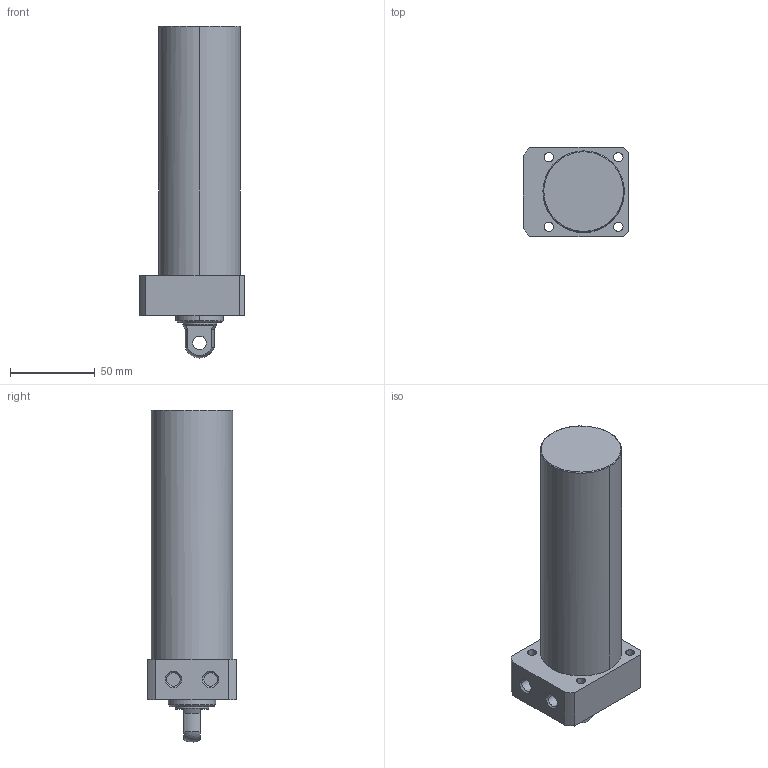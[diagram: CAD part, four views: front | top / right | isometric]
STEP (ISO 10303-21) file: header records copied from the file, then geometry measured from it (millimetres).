
FILE_DESCRIPTION((' '),'2;1');
FILE_NAME( 'TLLR-048CP-120.STEP.stp', '2025-10-24T16:34:40', (' '), ('--- Datakit www.datakit.com---'), ' Datakit CrossCadWare V2024.1 Dec 21 2023', 'Mastercam 2025', ' ');
FILE_SCHEMA(('AUTOMOTIVE_DESIGN { 1 0 10303 214 1 1 1 1 }'));
Length unit declared in the file: millimetre
Products named in the file (1): TLLR-048CP-120
Bounding box: 62 x 53 x 195.94 mm (x, y, z)
Volume: 345492.6 mm3; surface area: 37573.5 mm2
Topology: 1 solids, 1 shells, 57 faces, 164 edges, 116 vertices
Faces by surface type: cylinder 28, plane 18, cone 8, torus 2, sphere 1
Entity records: 2006 total; most frequent: DIRECTION 378, CARTESIAN_POINT 350, ORIENTED_EDGE 328, EDGE_CURVE 164, AXIS2_PLACEMENT_3D 160, VERTEX_POINT 116, CIRCLE 102, EDGE_LOOP 74
